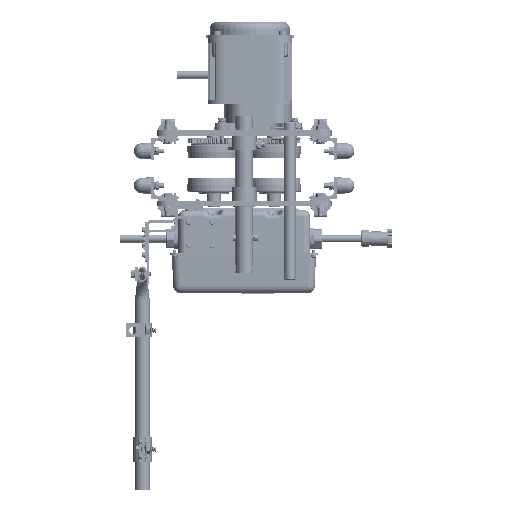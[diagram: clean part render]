
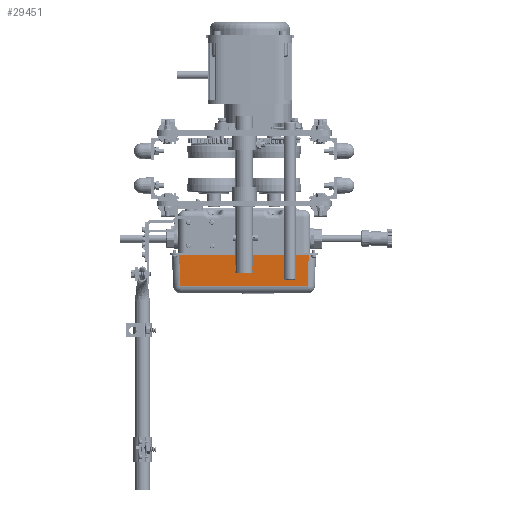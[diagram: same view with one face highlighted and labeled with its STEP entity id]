
A CAD part, front view. The second image highlights one B-rep face of the part: STEP entity #29451.
In plain terms, the highlighted planar face has unit normal (0, -0.999, -0.035) as drawn and (-0.035, -0.999, 0) by its records, which use the part's own axes.
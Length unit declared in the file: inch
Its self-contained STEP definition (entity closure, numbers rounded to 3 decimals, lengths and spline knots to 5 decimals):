
#320 = DIRECTION ( 'NONE',  ( 0.999, -0.035, -0.035 ) ) ;
#7796 = CARTESIAN_POINT ( 'NONE',  ( -2.69872, 0.48657, 9.7379 ) ) ;
#16125 = PLANE ( 'NONE',  #43886 ) ;
#24212 = LINE ( 'NONE', #90281, #116349 ) ;
#26742 = VERTEX_POINT ( 'NONE', #150168 ) ;
#29451 = ADVANCED_FACE ( 'NONE', ( #134217 ), #16125, .T. ) ;
#32573 = DIRECTION ( 'NONE',  ( 0., 0., -1. ) ) ;
#35380 = ORIENTED_EDGE ( 'NONE', *, *, #173068, .T. ) ;
#38338 = EDGE_LOOP ( 'NONE', ( #151248, #35380, #154150, #141966 ) ) ;
#38904 = VECTOR ( 'NONE', #71311, 39.37008 ) ;
#43886 = AXIS2_PLACEMENT_3D ( 'NONE', #95434, #138578, #69892 ) ;
#48314 = LINE ( 'NONE', #7796, #38904 ) ;
#48522 = CARTESIAN_POINT ( 'NONE',  ( -2.22259, 0.46994, 10.47244 ) ) ;
#49635 = CARTESIAN_POINT ( 'NONE',  ( -2.22259, 0.46994, 0.73446 ) ) ;
#58042 = EDGE_CURVE ( 'NONE', #114292, #154541, #169253, .T. ) ;
#69892 = DIRECTION ( 'NONE',  ( 0.999, -0.035, 0. ) ) ;
#71311 = DIRECTION ( 'NONE',  ( -0.999, 0.035, -0.035 ) ) ;
#90281 = CARTESIAN_POINT ( 'NONE',  ( -1.42092, 0.44195, 0.70647 ) ) ;
#95434 = CARTESIAN_POINT ( 'NONE',  ( -1.0803, 0.43005, 10.47244 ) ) ;
#101246 = LINE ( 'NONE', #155013, #110013 ) ;
#105510 = VERTEX_POINT ( 'NONE', #174067 ) ;
#110013 = VECTOR ( 'NONE', #32573, 39.37008 ) ;
#114292 = VERTEX_POINT ( 'NONE', #171599 ) ;
#116349 = VECTOR ( 'NONE', #320, 39.37008 ) ;
#119037 = EDGE_CURVE ( 'NONE', #26742, #105510, #101246, .T. ) ;
#120063 = VECTOR ( 'NONE', #131292, 39.37008 ) ;
#131292 = DIRECTION ( 'NONE',  ( 0., 0., -1. ) ) ;
#134217 = FACE_OUTER_BOUND ( 'NONE', #38338, .T. ) ;
#138578 = DIRECTION ( 'NONE',  ( -0.035, -0.999, 0. ) ) ;
#141966 = ORIENTED_EDGE ( 'NONE', *, *, #152364, .T. ) ;
#150168 = CARTESIAN_POINT ( 'NONE',  ( -0.03937, 0.3937, 9.83076 ) ) ;
#151248 = ORIENTED_EDGE ( 'NONE', *, *, #119037, .F. ) ;
#152364 = EDGE_CURVE ( 'NONE', #154541, #105510, #24212, .T. ) ;
#154150 = ORIENTED_EDGE ( 'NONE', *, *, #58042, .T. ) ;
#154541 = VERTEX_POINT ( 'NONE', #49635 ) ;
#155013 = CARTESIAN_POINT ( 'NONE',  ( -0.03937, 0.3937, 10.47244 ) ) ;
#169253 = LINE ( 'NONE', #48522, #120063 ) ;
#171599 = CARTESIAN_POINT ( 'NONE',  ( -2.22259, 0.46994, 9.75453 ) ) ;
#173068 = EDGE_CURVE ( 'NONE', #26742, #114292, #48314, .T. ) ;
#174067 = CARTESIAN_POINT ( 'NONE',  ( -0.03937, 0.3937, 0.65822 ) ) ;
